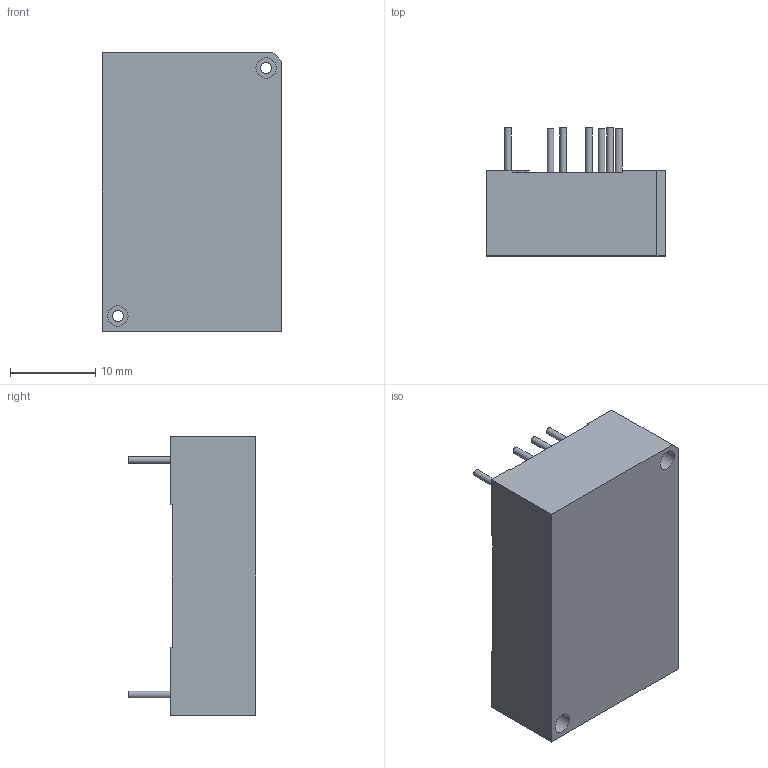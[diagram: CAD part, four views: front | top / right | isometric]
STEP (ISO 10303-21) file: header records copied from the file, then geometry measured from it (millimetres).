
FILE_DESCRIPTION(/* description */ (''),/* implementation_level */ '2;1');
FILE_NAME(/* name */ '',/* author */ (''),/* organization */ (''),/* preprocessor_version */ 'ST-DEVELOPER v18.1',/* originating_system */ '',/* authorisation */ '');
FILE_SCHEMA (('AUTOMOTIVE_DESIGN { 1 0 10303 214 3 1 1 }'));
Length unit declared in the file: millimetre
Products named in the file (1): JETDi15_case_pins
Bounding box: 21 x 15 x 32.7 mm (x, y, z)
Volume: 6519.2 mm3; surface area: 2667.8 mm2
Topology: 1 solids, 1 shells, 63 faces, 150 edges, 100 vertices
Faces by surface type: plane 44, cylinder 19
Full cylindrical faces by diameter (mm): 0.8 x7, 1.3 x2, 2.4 x4
Entity records: 1871 total; most frequent: DIRECTION 316, CARTESIAN_POINT 314, ORIENTED_EDGE 300, EDGE_CURVE 150, LINE 112, VECTOR 112, AXIS2_PLACEMENT_3D 102, VERTEX_POINT 100
